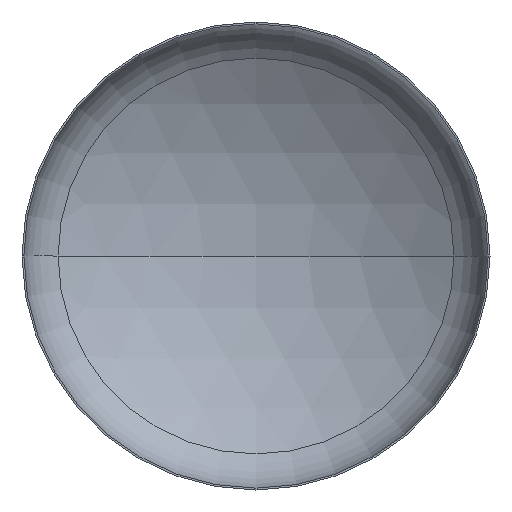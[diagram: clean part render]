
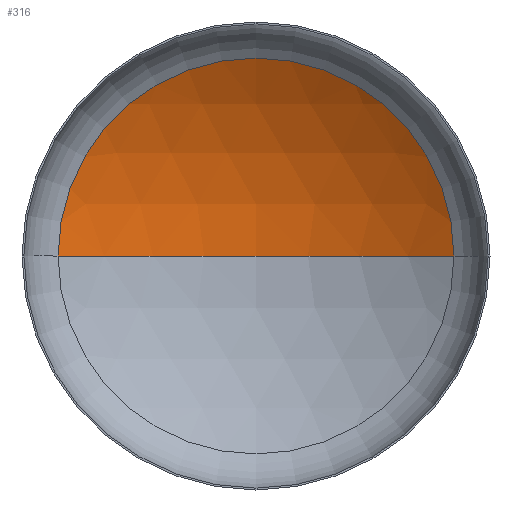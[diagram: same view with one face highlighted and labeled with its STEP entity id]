
A CAD part, front view. The second image highlights one B-rep face of the part: STEP entity #316.
In plain terms, the highlighted spherical face has radius 800 mm.
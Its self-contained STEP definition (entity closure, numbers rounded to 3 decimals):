
#2 = DIRECTION ( 'NONE',  ( 1., 0., 0. ) ) ;
#13 = AXIS2_PLACEMENT_3D ( 'NONE', #389, #395, #126 ) ;
#14 = DIRECTION ( 'NONE',  ( 0., 0., 1. ) ) ;
#15 = EDGE_LOOP ( 'NONE', ( #84, #27, #76 ) ) ;
#18 = CARTESIAN_POINT ( 'NONE',  ( 0., -527.489, 0. ) ) ;
#27 = ORIENTED_EDGE ( 'NONE', *, *, #97, .T. ) ;
#29 = VERTEX_POINT ( 'NONE', #288 ) ;
#36 = AXIS2_PLACEMENT_3D ( 'NONE', #18, #14, #2 ) ;
#38 = AXIS2_PLACEMENT_3D ( 'NONE', #339, #210, #362 ) ;
#39 = AXIS2_PLACEMENT_3D ( 'NONE', #227, #223, #226 ) ;
#76 = ORIENTED_EDGE ( 'NONE', *, *, #94, .T. ) ;
#84 = ORIENTED_EDGE ( 'NONE', *, *, #102, .F. ) ;
#94 = EDGE_CURVE ( 'NONE', #154, #29, #386, .T. ) ;
#97 = EDGE_CURVE ( 'NONE', #98, #154, #327, .T. ) ;
#98 = VERTEX_POINT ( 'NONE', #236 ) ;
#102 = EDGE_CURVE ( 'NONE', #98, #29, #273, .T. ) ;
#126 = DIRECTION ( 'NONE',  ( -1., 0., 0. ) ) ;
#154 = VERTEX_POINT ( 'NONE', #228 ) ;
#174 = FACE_OUTER_BOUND ( 'NONE', #15, .T. ) ;
#210 = DIRECTION ( 'NONE',  ( 0., 0., -1. ) ) ;
#223 = DIRECTION ( 'NONE',  ( 0., -1., 0. ) ) ;
#226 = DIRECTION ( 'NONE',  ( 1., 0., 0. ) ) ;
#227 = CARTESIAN_POINT ( 'NONE',  ( 0., 151.567, 0. ) ) ;
#228 = CARTESIAN_POINT ( 'NONE',  ( 422.946, 151.567, 0. ) ) ;
#236 = CARTESIAN_POINT ( 'NONE',  ( 0., 272.511, 0. ) ) ;
#252 = SPHERICAL_SURFACE ( 'NONE', #13, 800. ) ;
#273 = CIRCLE ( 'NONE', #36, 800. ) ;
#288 = CARTESIAN_POINT ( 'NONE',  ( -422.946, 151.567, 0. ) ) ;
#316 = ADVANCED_FACE ( 'NONE', ( #174 ), #252, .F. ) ;
#327 = CIRCLE ( 'NONE', #38, 800. ) ;
#339 = CARTESIAN_POINT ( 'NONE',  ( 0., -527.489, 0. ) ) ;
#362 = DIRECTION ( 'NONE',  ( -1., 0., 0. ) ) ;
#386 = CIRCLE ( 'NONE', #39, 422.946 ) ;
#389 = CARTESIAN_POINT ( 'NONE',  ( 0., -527.489, 0. ) ) ;
#395 = DIRECTION ( 'NONE',  ( 0., 0., -1. ) ) ;
